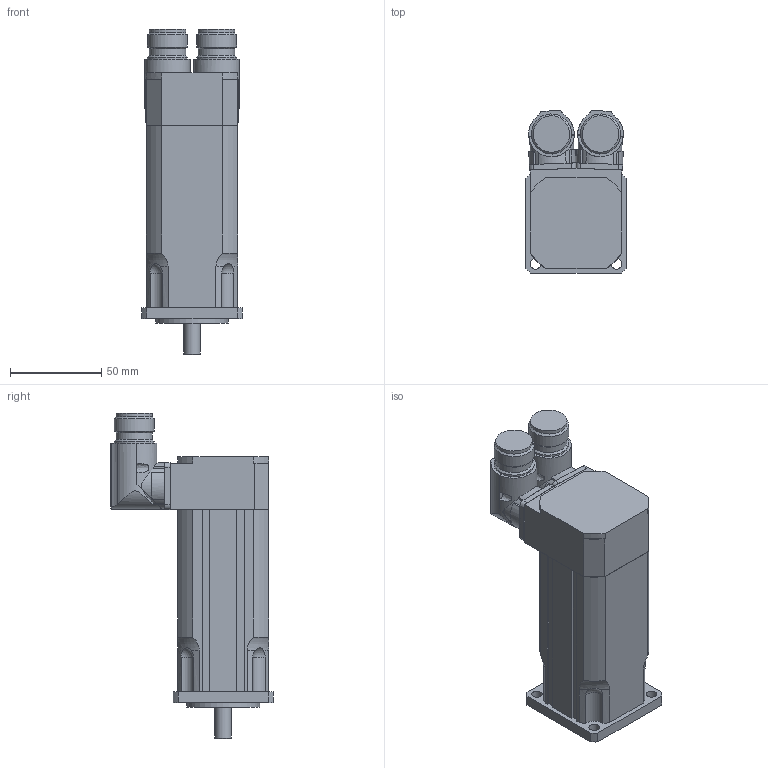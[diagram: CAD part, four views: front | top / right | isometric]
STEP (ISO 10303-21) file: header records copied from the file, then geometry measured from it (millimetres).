
FILE_DESCRIPTION(/* description */ ('Alibre Inc.'),/* implementation_level */ '2;1');
FILE_NAME(/* name */ 'export0',/* time_stamp */ '2011-07-28T08:08:35+02:00',/* author */ (''),/* organization */ (''),/* preprocessor_version */ 'ST-DEVELOPER v12',/* originating_system */ 'Alibre',/* authorisation */ '');
FILE_SCHEMA (('CONFIG_CONTROL_DESIGN'));
Length unit declared in the file: millimetre
Products named in the file (4): ID_1
Bounding box: 55 x 89.22 x 179 mm (x, y, z)
Volume: 375433.2 mm3; surface area: 56379.1 mm2
Topology: 4 solids, 4 shells, 227 faces, 614 edges, 405 vertices
Faces by surface type: cylinder 113, plane 89, bspline 10, cone 7, sphere 4, torus 4
Full cylindrical faces by diameter (mm): 2.7 x8, 9 x1, 20 x6, 22 x4, 26 x1, 40 x1
Entity records: 6119 total; most frequent: CARTESIAN_POINT 1792, ORIENTED_EDGE 808, DIRECTION 770, EDGE_CURVE 404, AXIS2_PLACEMENT_3D 319, VERTEX_POINT 281, EDGE_LOOP 205, FACE_BOUND 205
